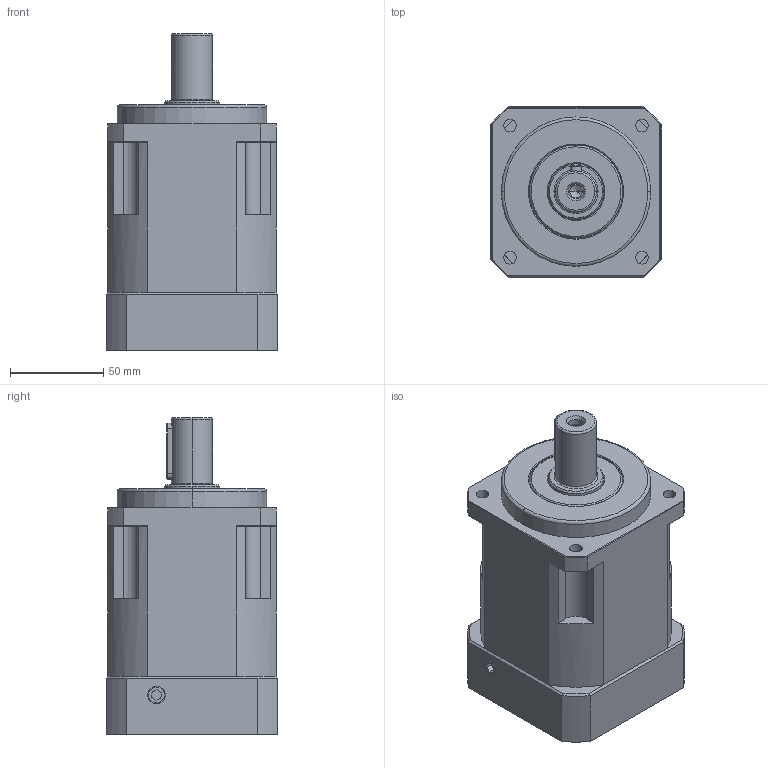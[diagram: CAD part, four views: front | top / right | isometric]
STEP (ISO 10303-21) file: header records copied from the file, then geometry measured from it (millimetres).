
FILE_DESCRIPTION (( 'STEP AP203' ), '1' );
FILE_NAME ('SB-SE90-1-特殊用.step', '2016-05-04T01:56:50', ( 'lm1221' ), ( '' ), 'SwSTEP 2.0', 'SolidWorks 2015', '' );
FILE_SCHEMA (( 'CONFIG_CONTROL_DESIGN' ));
Length unit declared in the file: millimetre
Products named in the file (1): SB-SE90-1-特殊用
Bounding box: 92 x 92 x 169.5 mm (x, y, z)
Volume: 663377.1 mm3; surface area: 134893.3 mm2
Topology: 1 solids, 18 shells, 569 faces, 1347 edges, 826 vertices
Faces by surface type: plane 227, cylinder 194, cone 122, torus 26
Entity records: 16683 total; most frequent: CARTESIAN_POINT 3209, DIRECTION 3012, ORIENTED_EDGE 2642, EDGE_CURVE 1321, AXIS2_PLACEMENT_3D 1191, VERTEX_POINT 826, EDGE_LOOP 643, LINE 630
